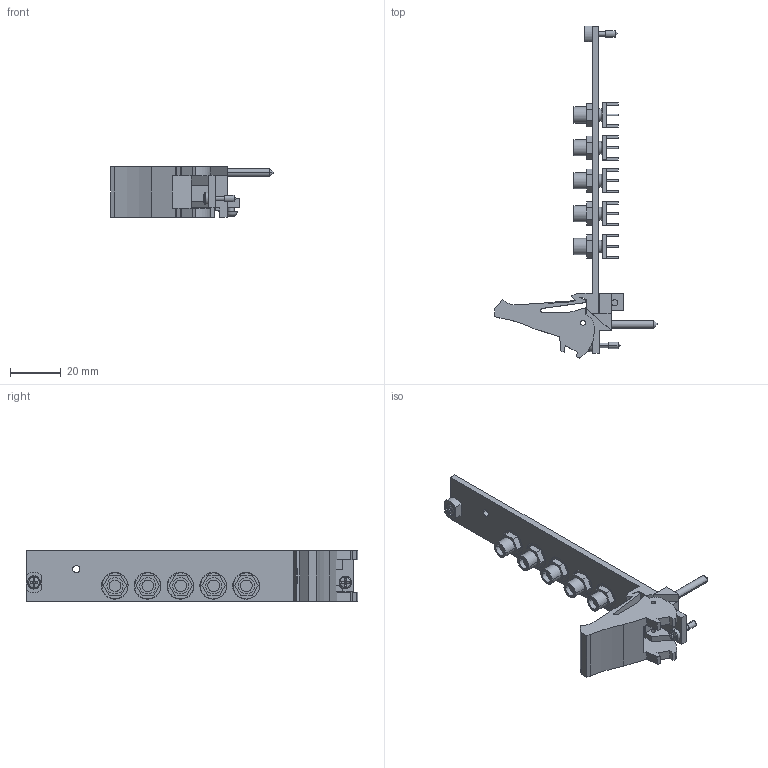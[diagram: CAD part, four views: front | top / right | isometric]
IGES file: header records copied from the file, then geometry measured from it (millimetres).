
Start section:  PTC IGES file: cu_pxi-2595.igs
Global section: file name: cu_pxi-2595.igs; native system: Pro/ENGINEER by Parametric Technology Corporation; preprocessor: 2006080; author: jjorden; organization: Unknown; date: 090908.152057; units: inch
Bounding box: 63.73 x 130.5 x 20.02 mm (x, y, z)
Surface area: 14334 mm2 (no closed solid volume)
Topology: 0 solids, 0 shells, 562 faces, 2838 edges, 2830 vertices
Faces by surface type: bspline 403, revolution 159
